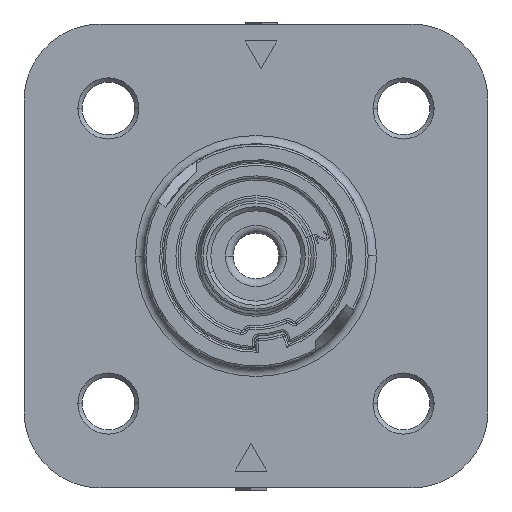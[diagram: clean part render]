
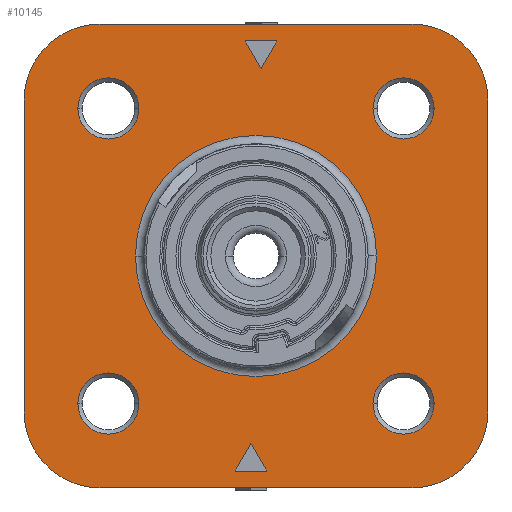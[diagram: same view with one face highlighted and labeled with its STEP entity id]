
A CAD part, front view. The second image highlights one B-rep face of the part: STEP entity #10145.
In plain terms, the highlighted planar face has unit normal (0, -1, 0).
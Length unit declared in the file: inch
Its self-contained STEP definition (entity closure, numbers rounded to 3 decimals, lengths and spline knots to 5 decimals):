
#2014=CARTESIAN_POINT('',(-0.37,-0.017,0.37));
#2015=DIRECTION('',(0.,-1.,0.));
#2016=DIRECTION('',(0.,0.,1.));
#2017=AXIS2_PLACEMENT_3D('',#2014,#2015,#2016);
#2019=DIRECTION('',(1.,0.,0.));
#2020=VECTOR('',#2019,0.38153);
#2021=CARTESIAN_POINT('',(-0.37,-0.017,0.55));
#2022=LINE('',#2021,#2020);
#2023=DIRECTION('',(-1.,0.,0.));
#2024=VECTOR('',#2023,0.00094);
#2025=CARTESIAN_POINT('',(0.01247,-0.017,0.55));
#2026=LINE('',#2025,#2024);
#2027=DIRECTION('',(1.,0.,0.));
#2028=VECTOR('',#2027,0.35753);
#2029=CARTESIAN_POINT('',(0.01247,-0.017,0.55));
#2030=LINE('',#2029,#2028);
#2031=CARTESIAN_POINT('',(0.37,-0.017,0.37));
#2032=DIRECTION('',(0.,-1.,0.));
#2033=DIRECTION('',(1.,0.,0.));
#2034=AXIS2_PLACEMENT_3D('',#2031,#2032,#2033);
#2036=DIRECTION('',(0.,0.,-1.));
#2037=VECTOR('',#2036,0.74);
#2038=CARTESIAN_POINT('',(0.55,-0.017,0.37));
#2039=LINE('',#2038,#2037);
#2040=CARTESIAN_POINT('',(0.37,-0.017,-0.37));
#2041=DIRECTION('',(0.,-1.,0.));
#2042=DIRECTION('',(0.,0.,-1.));
#2043=AXIS2_PLACEMENT_3D('',#2040,#2041,#2042);
#2045=DIRECTION('',(-1.,0.,0.));
#2046=VECTOR('',#2045,0.382);
#2047=CARTESIAN_POINT('',(0.37,-0.017,-0.55));
#2048=LINE('',#2047,#2046);
#2049=DIRECTION('',(-1.,0.,0.));
#2050=VECTOR('',#2049,0.358);
#2051=CARTESIAN_POINT('',(-0.012,-0.017,-0.55));
#2052=LINE('',#2051,#2050);
#2053=CARTESIAN_POINT('',(-0.37,-0.017,-0.37));
#2054=DIRECTION('',(0.,-1.,0.));
#2055=DIRECTION('',(-1.,0.,0.));
#2056=AXIS2_PLACEMENT_3D('',#2053,#2054,#2055);
#2058=DIRECTION('',(0.,0.,1.));
#2059=VECTOR('',#2058,0.74);
#2060=CARTESIAN_POINT('',(-0.55,-0.017,-0.37));
#2061=LINE('',#2060,#2059);
#2062=DIRECTION('',(-0.5,0.,0.866));
#2063=VECTOR('',#2062,0.07506);
#2064=CARTESIAN_POINT('',(0.02553,-0.017,-0.51));
#2065=LINE('',#2064,#2063);
#2066=DIRECTION('',(-0.5,0.,-0.866));
#2067=VECTOR('',#2066,0.07506);
#2068=CARTESIAN_POINT('',(-0.012,-0.017,-0.445));
#2069=LINE('',#2068,#2067);
#2070=DIRECTION('',(1.,0.,0.));
#2071=VECTOR('',#2070,0.07506);
#2072=CARTESIAN_POINT('',(-0.04953,-0.017,-0.51));
#2073=LINE('',#2072,#2071);
#2074=DIRECTION('',(-1.,0.,0.));
#2075=VECTOR('',#2074,0.07506);
#2076=CARTESIAN_POINT('',(0.04953,-0.017,0.51));
#2077=LINE('',#2076,#2075);
#2078=DIRECTION('',(0.5,0.,-0.866));
#2079=VECTOR('',#2078,0.07506);
#2080=CARTESIAN_POINT('',(-0.02553,-0.017,0.51));
#2081=LINE('',#2080,#2079);
#2082=DIRECTION('',(0.5,0.,0.866));
#2083=VECTOR('',#2082,0.07506);
#2084=CARTESIAN_POINT('',(0.012,-0.017,0.445));
#2085=LINE('',#2084,#2083);
#2086=CARTESIAN_POINT('',(0.35,-0.017,-0.35));
#2087=DIRECTION('',(0.,1.,0.));
#2088=DIRECTION('',(-1.,0.,0.));
#2089=AXIS2_PLACEMENT_3D('',#2086,#2087,#2088);
#2091=CARTESIAN_POINT('',(0.35,-0.017,-0.35));
#2092=DIRECTION('',(0.,1.,0.));
#2093=DIRECTION('',(1.,0.,0.));
#2094=AXIS2_PLACEMENT_3D('',#2091,#2092,#2093);
#2096=CARTESIAN_POINT('',(0.35,-0.017,0.35));
#2097=DIRECTION('',(0.,1.,0.));
#2098=DIRECTION('',(-1.,0.,0.));
#2099=AXIS2_PLACEMENT_3D('',#2096,#2097,#2098);
#2101=CARTESIAN_POINT('',(0.35,-0.017,0.35));
#2102=DIRECTION('',(0.,1.,0.));
#2103=DIRECTION('',(1.,0.,0.));
#2104=AXIS2_PLACEMENT_3D('',#2101,#2102,#2103);
#2106=CARTESIAN_POINT('',(-0.35,-0.017,0.35));
#2107=DIRECTION('',(0.,1.,0.));
#2108=DIRECTION('',(-1.,0.,0.));
#2109=AXIS2_PLACEMENT_3D('',#2106,#2107,#2108);
#2111=CARTESIAN_POINT('',(-0.35,-0.017,0.35));
#2112=DIRECTION('',(0.,1.,0.));
#2113=DIRECTION('',(1.,0.,0.));
#2114=AXIS2_PLACEMENT_3D('',#2111,#2112,#2113);
#2116=CARTESIAN_POINT('',(-0.35,-0.017,-0.35));
#2117=DIRECTION('',(0.,1.,0.));
#2118=DIRECTION('',(1.,0.,0.));
#2119=AXIS2_PLACEMENT_3D('',#2116,#2117,#2118);
#2121=CARTESIAN_POINT('',(-0.35,-0.017,-0.35));
#2122=DIRECTION('',(0.,1.,0.));
#2123=DIRECTION('',(-1.,0.,0.));
#2124=AXIS2_PLACEMENT_3D('',#2121,#2122,#2123);
#2126=CARTESIAN_POINT('',(0.,-0.017,0.));
#2127=DIRECTION('',(0.,1.,0.));
#2128=DIRECTION('',(1.,0.,0.));
#2129=AXIS2_PLACEMENT_3D('',#2126,#2127,#2128);
#2131=CARTESIAN_POINT('',(0.,-0.017,0.));
#2132=DIRECTION('',(0.,1.,0.));
#2133=DIRECTION('',(-1.,0.,0.));
#2134=AXIS2_PLACEMENT_3D('',#2131,#2132,#2133);
#6946=CARTESIAN_POINT('',(-0.37,-0.017,0.55));
#6947=CARTESIAN_POINT('',(-0.55,-0.017,0.37));
#6948=VERTEX_POINT('',#6946);
#6949=VERTEX_POINT('',#6947);
#6954=CARTESIAN_POINT('',(0.55,-0.017,0.37));
#6955=CARTESIAN_POINT('',(0.37,-0.017,0.55));
#6956=VERTEX_POINT('',#6954);
#6957=VERTEX_POINT('',#6955);
#6962=CARTESIAN_POINT('',(-0.55,-0.017,-0.37));
#6963=CARTESIAN_POINT('',(-0.37,-0.017,-0.55));
#6964=VERTEX_POINT('',#6962);
#6965=VERTEX_POINT('',#6963);
#6970=CARTESIAN_POINT('',(0.37,-0.017,-0.55));
#6971=CARTESIAN_POINT('',(0.55,-0.017,-0.37));
#6972=VERTEX_POINT('',#6970);
#6973=VERTEX_POINT('',#6971);
#6978=CARTESIAN_POINT('',(0.01247,-0.017,0.55));
#6979=VERTEX_POINT('',#6978);
#6980=CARTESIAN_POINT('',(0.01153,-0.017,0.55));
#6981=VERTEX_POINT('',#6980);
#6994=CARTESIAN_POINT('',(0.286,-0.017,0.));
#6995=CARTESIAN_POINT('',(-0.286,-0.017,0.));
#6996=VERTEX_POINT('',#6994);
#6997=VERTEX_POINT('',#6995);
#7004=CARTESIAN_POINT('',(0.02553,-0.017,-0.51));
#7005=CARTESIAN_POINT('',(-0.012,-0.017,-0.445));
#7006=VERTEX_POINT('',#7004);
#7007=VERTEX_POINT('',#7005);
#7008=CARTESIAN_POINT('',(-0.04953,-0.017,-0.51));
#7009=VERTEX_POINT('',#7008);
#7010=CARTESIAN_POINT('',(0.2775,-0.017,-0.35));
#7011=CARTESIAN_POINT('',(0.4225,-0.017,-0.35));
#7012=VERTEX_POINT('',#7010);
#7013=VERTEX_POINT('',#7011);
#7018=CARTESIAN_POINT('',(0.2775,-0.017,0.35));
#7019=CARTESIAN_POINT('',(0.4225,-0.017,0.35));
#7020=VERTEX_POINT('',#7018);
#7021=VERTEX_POINT('',#7019);
#7026=CARTESIAN_POINT('',(-0.4225,-0.017,0.35));
#7027=CARTESIAN_POINT('',(-0.2775,-0.017,0.35));
#7028=VERTEX_POINT('',#7026);
#7029=VERTEX_POINT('',#7027);
#7034=CARTESIAN_POINT('',(-0.2775,-0.017,-0.35));
#7035=CARTESIAN_POINT('',(-0.4225,-0.017,-0.35));
#7036=VERTEX_POINT('',#7034);
#7037=VERTEX_POINT('',#7035);
#7090=CARTESIAN_POINT('',(-0.012,-0.017,-0.55));
#7092=VERTEX_POINT('',#7090);
#7102=CARTESIAN_POINT('',(0.04953,-0.017,0.51));
#7103=CARTESIAN_POINT('',(-0.02553,-0.017,0.51));
#7104=VERTEX_POINT('',#7102);
#7105=VERTEX_POINT('',#7103);
#7106=CARTESIAN_POINT('',(0.012,-0.017,0.445));
#7107=VERTEX_POINT('',#7106);
#10072=CARTESIAN_POINT('',(0.,-0.017,0.));
#10073=DIRECTION('',(0.,1.,0.));
#10074=DIRECTION('',(1.,0.,0.));
#10075=AXIS2_PLACEMENT_3D('',#10072,#10073,#10074);
#10076=PLANE('',#10075);
#10078=ORIENTED_EDGE('',*,*,#10077,.F.);
#10080=ORIENTED_EDGE('',*,*,#10079,.T.);
#10082=ORIENTED_EDGE('',*,*,#10081,.F.);
#10084=ORIENTED_EDGE('',*,*,#10083,.T.);
#10086=ORIENTED_EDGE('',*,*,#10085,.F.);
#10088=ORIENTED_EDGE('',*,*,#10087,.T.);
#10090=ORIENTED_EDGE('',*,*,#10089,.F.);
#10092=ORIENTED_EDGE('',*,*,#10091,.T.);
#10094=ORIENTED_EDGE('',*,*,#10093,.T.);
#10096=ORIENTED_EDGE('',*,*,#10095,.F.);
#10098=ORIENTED_EDGE('',*,*,#10097,.T.);
#10099=EDGE_LOOP('',(#10078,#10080,#10082,#10084,#10086,#10088,#10090,#10092,
#10094,#10096,#10098));
#10100=FACE_OUTER_BOUND('',#10099,.F.);
#10102=ORIENTED_EDGE('',*,*,#10101,.T.);
#10104=ORIENTED_EDGE('',*,*,#10103,.T.);
#10106=ORIENTED_EDGE('',*,*,#10105,.T.);
#10107=EDGE_LOOP('',(#10102,#10104,#10106));
#10108=FACE_BOUND('',#10107,.F.);
#10110=ORIENTED_EDGE('',*,*,#10109,.T.);
#10112=ORIENTED_EDGE('',*,*,#10111,.T.);
#10114=ORIENTED_EDGE('',*,*,#10113,.T.);
#10115=EDGE_LOOP('',(#10110,#10112,#10114));
#10116=FACE_BOUND('',#10115,.F.);
#10118=ORIENTED_EDGE('',*,*,#10117,.F.);
#10120=ORIENTED_EDGE('',*,*,#10119,.F.);
#10121=EDGE_LOOP('',(#10118,#10120));
#10122=FACE_BOUND('',#10121,.F.);
#10124=ORIENTED_EDGE('',*,*,#10123,.F.);
#10126=ORIENTED_EDGE('',*,*,#10125,.F.);
#10127=EDGE_LOOP('',(#10124,#10126));
#10128=FACE_BOUND('',#10127,.F.);
#10130=ORIENTED_EDGE('',*,*,#10129,.F.);
#10132=ORIENTED_EDGE('',*,*,#10131,.F.);
#10133=EDGE_LOOP('',(#10130,#10132));
#10134=FACE_BOUND('',#10133,.F.);
#10136=ORIENTED_EDGE('',*,*,#10135,.F.);
#10138=ORIENTED_EDGE('',*,*,#10137,.F.);
#10139=EDGE_LOOP('',(#10136,#10138));
#10140=FACE_BOUND('',#10139,.F.);
#10141=ORIENTED_EDGE('',*,*,#9381,.F.);
#10142=ORIENTED_EDGE('',*,*,#9366,.F.);
#10143=EDGE_LOOP('',(#10141,#10142));
#10144=FACE_BOUND('',#10143,.F.);
#10145=ADVANCED_FACE('',(#10100,#10108,#10116,#10122,#10128,#10134,#10140,
#10144),#10076,.F.);
#2018=CIRCLE('',#2017,0.18);
#2035=CIRCLE('',#2034,0.18);
#2044=CIRCLE('',#2043,0.18);
#2057=CIRCLE('',#2056,0.18);
#2090=CIRCLE('',#2089,0.0725);
#2095=CIRCLE('',#2094,0.0725);
#2100=CIRCLE('',#2099,0.0725);
#2105=CIRCLE('',#2104,0.0725);
#2110=CIRCLE('',#2109,0.0725);
#2115=CIRCLE('',#2114,0.0725);
#2120=CIRCLE('',#2119,0.0725);
#2125=CIRCLE('',#2124,0.0725);
#2130=CIRCLE('',#2129,0.286);
#2135=CIRCLE('',#2134,0.286);
#9366=EDGE_CURVE('',#6997,#6996,#2135,.T.);
#9381=EDGE_CURVE('',#6996,#6997,#2130,.T.);
#10077=EDGE_CURVE('',#6948,#6949,#2018,.T.);
#10079=EDGE_CURVE('',#6948,#6981,#2022,.T.);
#10081=EDGE_CURVE('',#6979,#6981,#2026,.T.);
#10083=EDGE_CURVE('',#6979,#6957,#2030,.T.);
#10085=EDGE_CURVE('',#6956,#6957,#2035,.T.);
#10087=EDGE_CURVE('',#6956,#6973,#2039,.T.);
#10089=EDGE_CURVE('',#6972,#6973,#2044,.T.);
#10091=EDGE_CURVE('',#6972,#7092,#2048,.T.);
#10093=EDGE_CURVE('',#7092,#6965,#2052,.T.);
#10095=EDGE_CURVE('',#6964,#6965,#2057,.T.);
#10097=EDGE_CURVE('',#6964,#6949,#2061,.T.);
#10101=EDGE_CURVE('',#7006,#7007,#2065,.T.);
#10103=EDGE_CURVE('',#7007,#7009,#2069,.T.);
#10105=EDGE_CURVE('',#7009,#7006,#2073,.T.);
#10109=EDGE_CURVE('',#7104,#7105,#2077,.T.);
#10111=EDGE_CURVE('',#7105,#7107,#2081,.T.);
#10113=EDGE_CURVE('',#7107,#7104,#2085,.T.);
#10117=EDGE_CURVE('',#7012,#7013,#2090,.T.);
#10119=EDGE_CURVE('',#7013,#7012,#2095,.T.);
#10123=EDGE_CURVE('',#7020,#7021,#2100,.T.);
#10125=EDGE_CURVE('',#7021,#7020,#2105,.T.);
#10129=EDGE_CURVE('',#7028,#7029,#2110,.T.);
#10131=EDGE_CURVE('',#7029,#7028,#2115,.T.);
#10135=EDGE_CURVE('',#7036,#7037,#2120,.T.);
#10137=EDGE_CURVE('',#7037,#7036,#2125,.T.);
